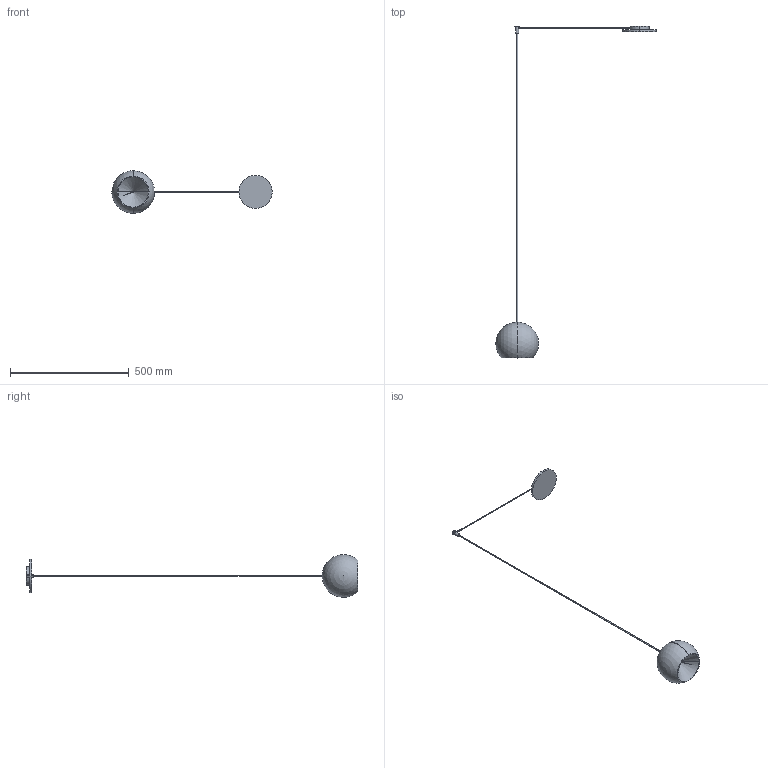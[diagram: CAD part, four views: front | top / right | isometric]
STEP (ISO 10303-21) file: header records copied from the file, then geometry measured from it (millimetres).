
FILE_DESCRIPTION (( 'STEP AP203' ), '1' );
FILE_NAME ('CHR01-00-CHERRY_1 sospensione.STEP', '2024-07-31T07:54:35', ( '' ), ( '' ), 'SwSTEP 2.0', 'SolidWorks 2022', '' );
FILE_SCHEMA (( 'CONFIG_CONTROL_DESIGN' ));
Length unit declared in the file: millimetre
Products named in the file (3): CHERRY_Lampada singola Diam.180_H=1600; CHR01-00-CHERRY_1 sospensione; CHERRY_Rosone diam.140_Cherry 1<A macchina>
Assembly tree (2 placements, depth 2):
  CHR01-00-CHERRY_1 sospensione
    CHERRY_Rosone diam.140_Cherry 1<A macchina>
    CHERRY_Lampada singola Diam.180_H=1600
Bounding box: 676 x 1400 x 179.72 mm (x, y, z)
Volume: 432179.9 mm3; surface area: 271138.1 mm2
Topology: 6 solids, 6 shells, 43 faces, 98 edges, 62 vertices
Faces by surface type: cylinder 20, plane 15, sphere 4, cone 4
Entity records: 1483 total; most frequent: CARTESIAN_POINT 260, DIRECTION 224, ORIENTED_EDGE 168, AXIS2_PLACEMENT_3D 100, EDGE_CURVE 84, VERTEX_POINT 56, CIRCLE 52, EDGE_LOOP 48
